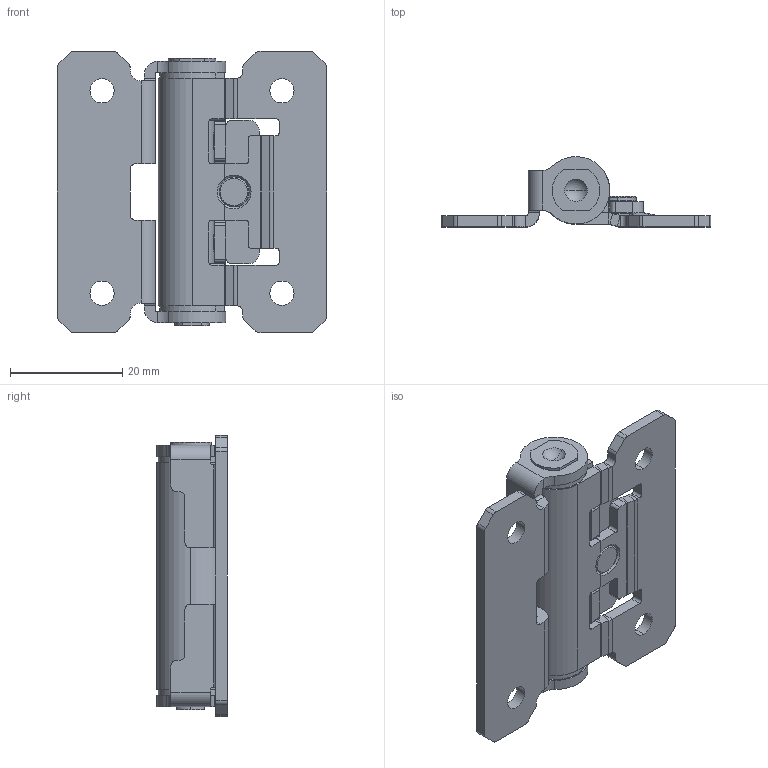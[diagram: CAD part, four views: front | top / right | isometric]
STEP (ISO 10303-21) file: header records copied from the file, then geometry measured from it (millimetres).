
FILE_DESCRIPTION (( 'STEP AP214' ), '1' );
FILE_NAME ('CL-102-3.STEP', '2022-04-30T03:13:47', ( 'Owner' ), ( '' ), 'SwSTEP 2.0', 'SolidWorks 2019', '' );
FILE_SCHEMA (( 'AUTOMOTIVE_DESIGN' ));
Length unit declared in the file: inch
Products named in the file (1): CL-102-3
Bounding box: 48 x 12.5 x 50 mm (x, y, z)
Volume: 9024.2 mm3; surface area: 11385.3 mm2
Topology: 7 solids, 7 shells, 366 faces, 989 edges, 634 vertices
Faces by surface type: plane 187, cylinder 162, cone 13, sphere 4
Entity records: 16552 total; most frequent: CARTESIAN_POINT 2287, DIRECTION 2005, ORIENTED_EDGE 1966, EDGE_CURVE 983, AXIS2_PLACEMENT_3D 707, VERTEX_POINT 632, LINE 591, VECTOR 591
